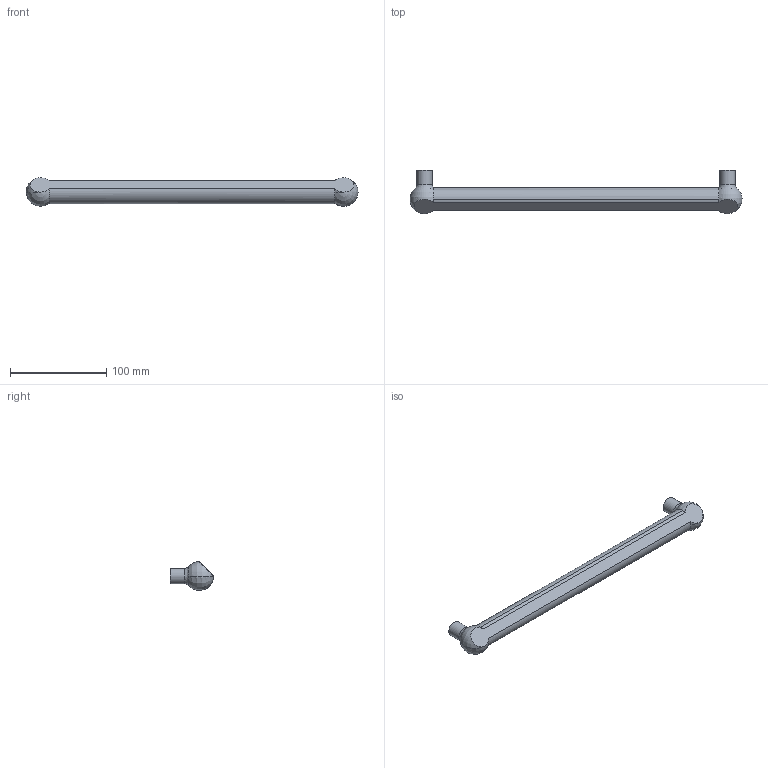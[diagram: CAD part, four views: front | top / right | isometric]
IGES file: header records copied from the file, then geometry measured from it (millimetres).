
Start section: Data from Parasolid IGES Translator 15.0.47, Copyright(c) 2006 Siemens P LM Software. All Rights Reserved.
Global section: file name: 9105768.igs; native system:  By UGS Corp.; preprocessor: XPlus GENERIC/IGES 3.0; author: Noname; organization: Noname; date: 20140122.155736; units: millimetre
Bounding box: 344.96 x 45 x 29.79 mm (x, y, z)
Surface area: 28547.3 mm2 (no closed solid volume)
Topology: 0 solids, 0 shells, 17 faces, 78 edges, 68 vertices
Faces by surface type: revolution 12, extrusion 5
